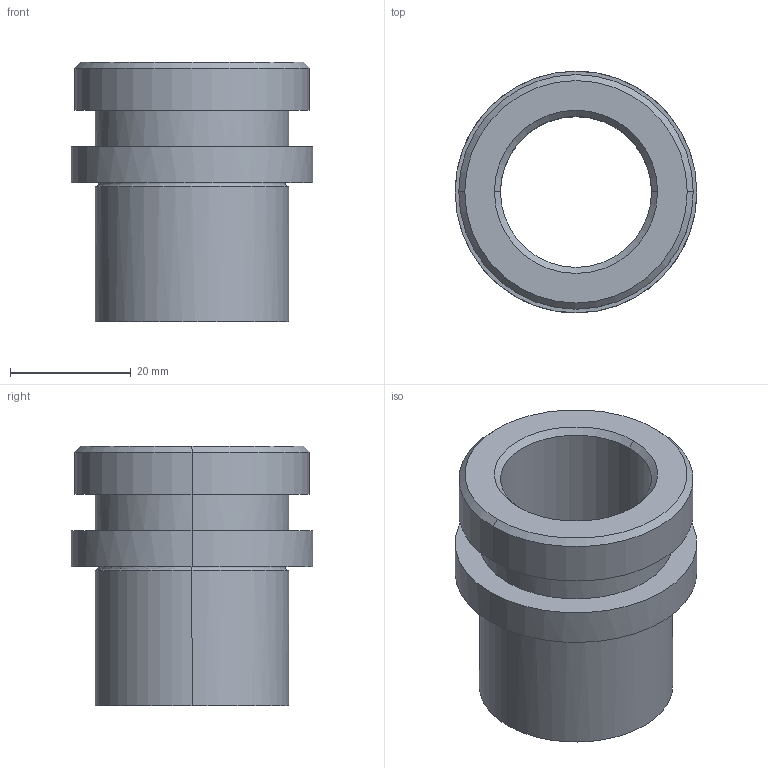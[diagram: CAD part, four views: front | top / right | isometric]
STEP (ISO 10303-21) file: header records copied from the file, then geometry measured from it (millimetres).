
FILE_DESCRIPTION(('CATIA V5 STEP Exchange'),'2;1');
FILE_NAME('C:\Users\Utente\Desktop\IO LAVORO\3D X SITO CF\X SITO\735\735-19.stp','2021-01-16T19:29:52+00:00',('none'),('none'),'CATIA Version 5 Release 20 GA (IN-10)','CATIA V5 STEP AP203','none');
FILE_SCHEMA(('CONFIG_CONTROL_DESIGN'));
Length unit declared in the file: millimetre
Products named in the file (1): 735-19
Assembly tree (1 placements, depth 2):
  735-19
    #58
Bounding box: 40 x 40 x 43 mm (x, y, z)
Volume: 18989 mm3; surface area: 10307.6 mm2
Topology: 1 solids, 1 shells, 25 faces, 50 edges, 30 vertices
Faces by surface type: cylinder 10, cone 6, plane 5, torus 4
Entity records: 851 total; most frequent: CARTESIAN_POINT 282, ORIENTED_EDGE 100, DIRECTION 96, AXIS2_PLACEMENT_3D 53, EDGE_CURVE 50, EDGE_LOOP 30, VERTEX_POINT 30, CIRCLE 26
